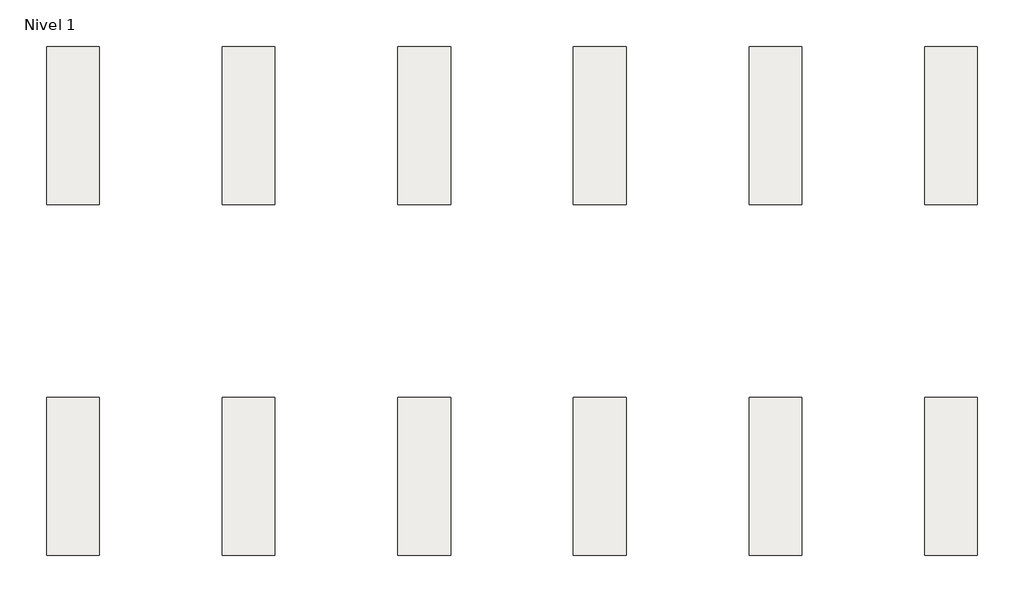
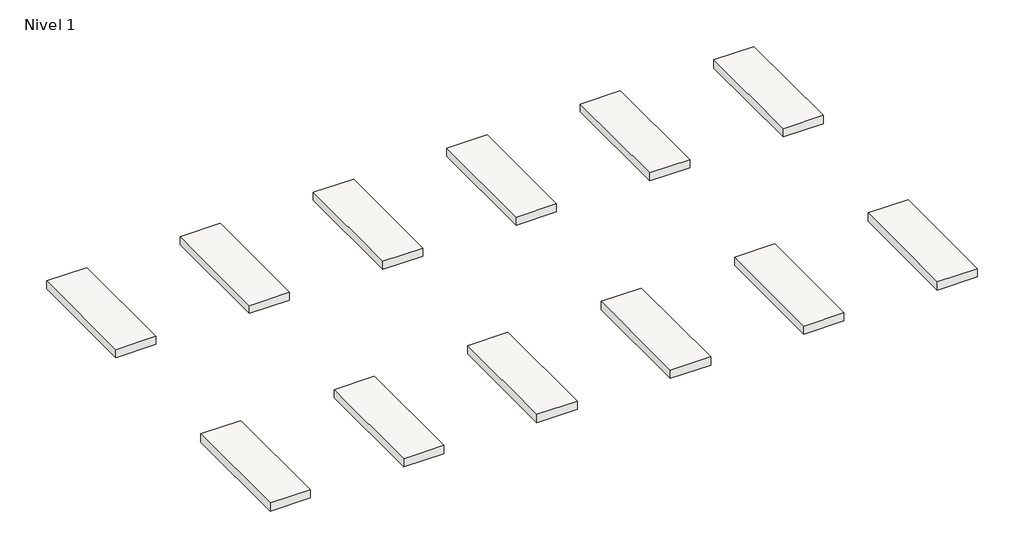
# One storey: 12 slabs.
"""IFC4 building model written with IfcOpenShell, lengths in millimetres."""

from ifc_helpers import new_model, si_unit, frame, origin, place, context, project, spatial, polyline, outline, extrude, element, save

model = new_model("IFC4")

# Units and contexts
model_context = context("Model", 3, world=origin())
ifc_project = project(units=[si_unit("LENGTHUNIT", "METRE", prefix="MILLI")], contexts=[model_context])

# Site, building, storey
site = spatial("IfcSite", under=ifc_project)
building = spatial("IfcBuilding", under=site)
storey = spatial("IfcBuildingStorey", under=building, Name="Nivel 1", Elevation=0.0)

# Slabs
placement = place(None, origin())
element("IfcSlab", 1, ObjectType="Boston Antracita 30X90", at=placement, inside=storey, context=model_context, shape_type="SweptSolid", body=[
    extrude(outline(polyline([(0.0, 900.0), (300.0, 900.0), (300.0, 0.0), (0.0, 0.0), (0.0, 900.0)])), frame((0.0, 0.0, -63.0), z_axis=(0.0, 0.0, 1.0), x_axis=(1.0, 0.0, 0.0)), (0.0, 0.0, 1.0), 63.0),
])
element("IfcSlab", 2, ObjectType="Boston Beige 30X90", at=placement, inside=storey, context=model_context, shape_type="SweptSolid", body=[
    extrude(outline(polyline([(1000.0, 900.0), (1300.0, 900.0), (1300.0, 0.0), (1000.0, 0.0), (1000.0, 900.0)])), frame((0.0, 0.0, -63.0), z_axis=(0.0, 0.0, 1.0), x_axis=(1.0, 0.0, 0.0)), (0.0, 0.0, 1.0), 63.0),
])
element("IfcSlab", 3, ObjectType="Boston Blanco 30X90", at=placement, inside=storey, context=model_context, shape_type="SweptSolid", body=[
    extrude(outline(polyline([(2000.0, 900.0), (2300.0, 900.0), (2300.0, 0.0), (2000.0, 0.0), (2000.0, 900.0)])), frame((0.0, 0.0, -63.0), z_axis=(0.0, 0.0, 1.0), x_axis=(1.0, 0.0, 0.0)), (0.0, 0.0, 1.0), 63.0),
])
element("IfcSlab", 4, ObjectType="Boston Cemento 30X90", at=placement, inside=storey, context=model_context, shape_type="SweptSolid", body=[
    extrude(outline(polyline([(3000.0, 900.0), (3300.0, 900.0), (3300.0, 0.0), (3000.0, 0.0), (3000.0, 900.0)])), frame((0.0, 0.0, -63.0), z_axis=(0.0, 0.0, 1.0), x_axis=(1.0, 0.0, 0.0)), (0.0, 0.0, 1.0), 63.0),
])
element("IfcSlab", 5, ObjectType="Boston Gris 30X90", at=placement, inside=storey, context=model_context, shape_type="SweptSolid", body=[
    extrude(outline(polyline([(4000.0, 900.0), (4300.0, 900.0), (4300.0, 0.0), (4000.0, 0.0), (4000.0, 900.0)])), frame((0.0, 0.0, -63.0), z_axis=(0.0, 0.0, 1.0), x_axis=(1.0, 0.0, 0.0)), (0.0, 0.0, 1.0), 63.0),
])
element("IfcSlab", 6, ObjectType="Harvard Antracita 30X90", at=placement, inside=storey, context=model_context, shape_type="SweptSolid", body=[
    extrude(outline(polyline([(5000.0, 900.0), (5300.0, 900.0), (5300.0, 0.0), (5000.0, 0.0), (5000.0, 900.0)])), frame((0.0, 0.0, -65.0), z_axis=(0.0, 0.0, 1.0), x_axis=(1.0, 0.0, 0.0)), (0.0, 0.0, 1.0), 65.0),
])
element("IfcSlab", 7, ObjectType="Harvard Beige 30X90", at=placement, inside=storey, context=model_context, shape_type="SweptSolid", body=[
    extrude(outline(polyline([(0.0, -1100.0), (300.0, -1100.0), (300.0, -2000.0), (0.0, -2000.0), (0.0, -1100.0)])), frame((0.0, 0.0, -65.0), z_axis=(0.0, 0.0, 1.0), x_axis=(1.0, 0.0, 0.0)), (0.0, 0.0, 1.0), 65.0),
])
element("IfcSlab", 8, ObjectType="Harvard Blanco 30X90", at=placement, inside=storey, context=model_context, shape_type="SweptSolid", body=[
    extrude(outline(polyline([(1000.0, -1100.0), (1300.0, -1100.0), (1300.0, -2000.0), (1000.0, -2000.0), (1000.0, -1100.0)])), frame((0.0, 0.0, -65.0), z_axis=(0.0, 0.0, 1.0), x_axis=(1.0, 0.0, 0.0)), (0.0, 0.0, 1.0), 65.0),
])
element("IfcSlab", 9, ObjectType="Harvard Cemento 30X90", at=placement, inside=storey, context=model_context, shape_type="SweptSolid", body=[
    extrude(outline(polyline([(2000.0, -1100.0), (2300.0, -1100.0), (2300.0, -2000.0), (2000.0, -2000.0), (2000.0, -1100.0)])), frame((0.0, 0.0, -65.0), z_axis=(0.0, 0.0, 1.0), x_axis=(1.0, 0.0, 0.0)), (0.0, 0.0, 1.0), 65.0),
])
element("IfcSlab", 10, ObjectType="Harvard Gris 30X90", at=placement, inside=storey, context=model_context, shape_type="SweptSolid", body=[
    extrude(outline(polyline([(3000.0, -1100.0), (3300.0, -1100.0), (3300.0, -2000.0), (3000.0, -2000.0), (3000.0, -1100.0)])), frame((0.0, 0.0, -65.0), z_axis=(0.0, 0.0, 1.0), x_axis=(1.0, 0.0, 0.0)), (0.0, 0.0, 1.0), 65.0),
])
element("IfcSlab", 11, ObjectType="Kaplan Beige 30X90", at=placement, inside=storey, context=model_context, shape_type="SweptSolid", body=[
    extrude(outline(polyline([(4000.0, -1100.0), (4300.0, -1100.0), (4300.0, -2000.0), (4000.0, -2000.0), (4000.0, -1100.0)])), frame((0.0, 0.0, -65.0), z_axis=(0.0, 0.0, 1.0), x_axis=(1.0, 0.0, 0.0)), (0.0, 0.0, 1.0), 65.0),
])
element("IfcSlab", 12, ObjectType="Kaplan Blanco 30X90", at=placement, inside=storey, context=model_context, shape_type="SweptSolid", body=[
    extrude(outline(polyline([(5000.0, -1100.0), (5300.0, -1100.0), (5300.0, -2000.0), (5000.0, -2000.0), (5000.0, -1100.0)])), frame((0.0, 0.0, -65.0), z_axis=(0.0, 0.0, 1.0), x_axis=(1.0, 0.0, 0.0)), (0.0, 0.0, 1.0), 65.0),
])

save(model, "model.ifc")
